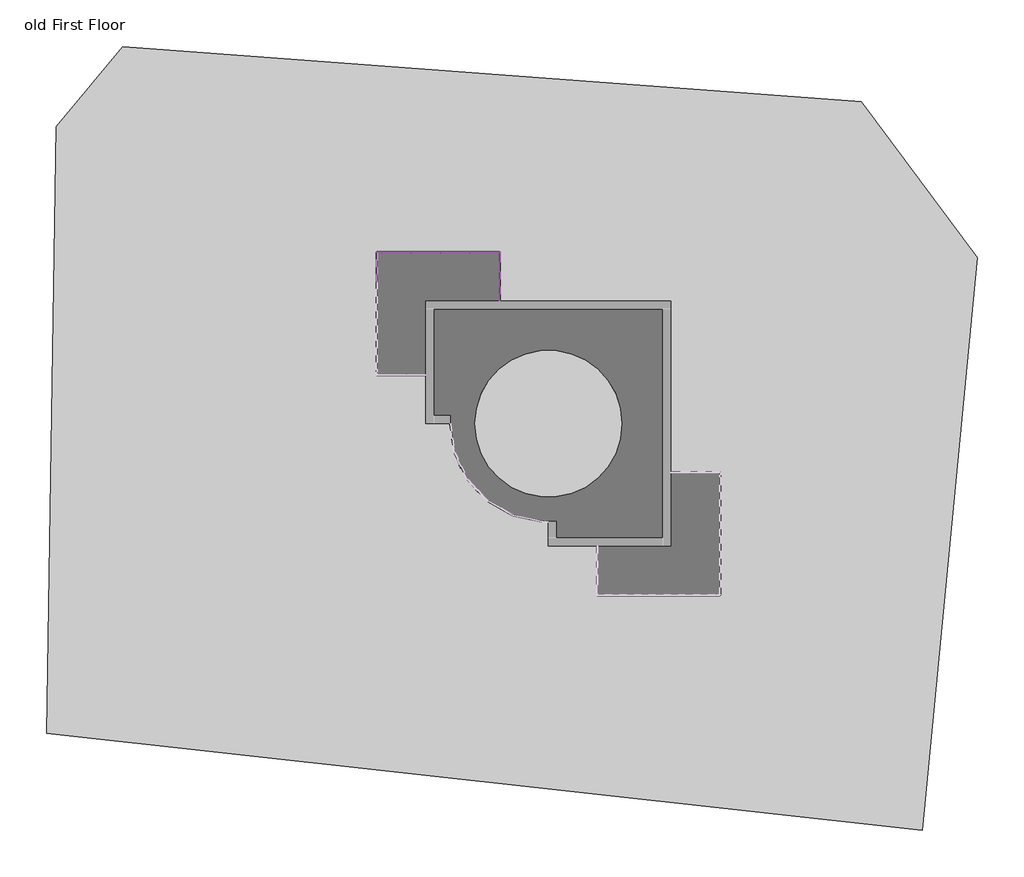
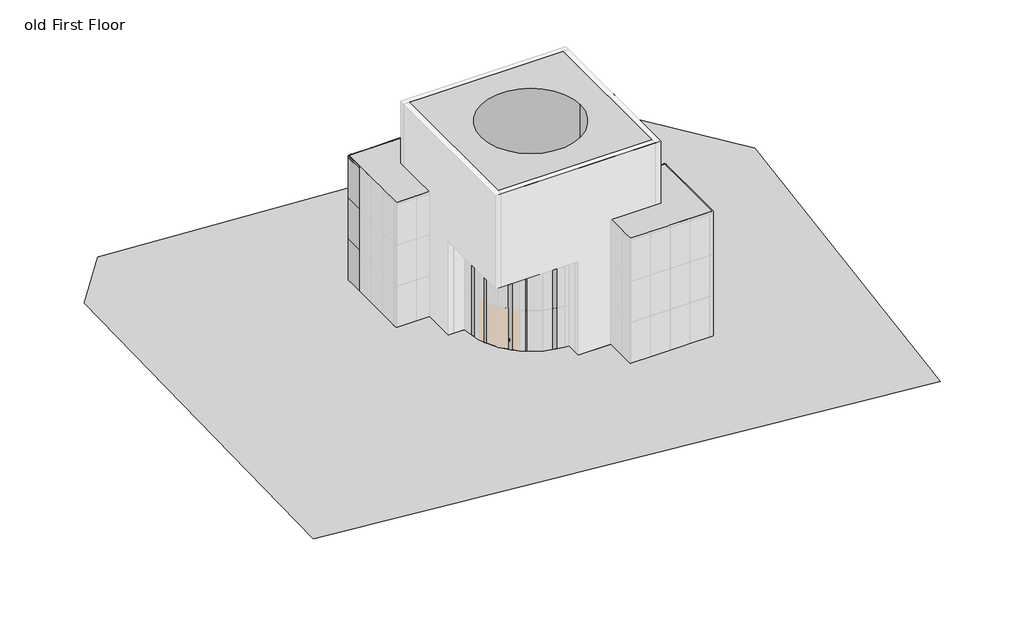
# One storey, part 4 of 4: 72 members, 32 plates, 3 proxies, 2 slabs.
"""IFC4 building model written with IfcOpenShell, lengths in millimetres."""

from ifc_helpers import new_model, si_unit, point, frame, frame_2d, origin, origin_with_axes, place, context, project, spatial, polyline, circle_curve, trimmed, segment, composite_curve, outline, extrude, triangles, transform, mapped, element, save
from ifc_brep_helpers import plane_surface, cylinder_surface, revolved_surface, advanced_brep
from components import member_159572b0, member_653015da, member_2a641000, member_559eaf3f, member_582f46e3, member_ecc72e92, member_f3435ee7, member_a0b1ebc8, member_e916581d, member_8d5cdd9e, member_e2275742, member_baf210a9, system_panel_glazed_055f5726, system_panel_glazed_f85f85f2, system_panel_glazed_14487ba2, system_panel_glazed_56128400, system_panel_glazed_75032e0c, system_panel_glazed_306a2926

model = new_model("IFC4")

# Units and contexts
model_context = context("Model", 3, world=origin())
ifc_project = project(units=[si_unit("LENGTHUNIT", "METRE", prefix="MILLI")], contexts=[model_context])

# Site, building, storey
site = spatial("IfcSite", under=ifc_project)
building = spatial("IfcBuilding", under=site)
storey = spatial("IfcBuildingStorey", under=building, Name="old First Floor", Elevation=0.0)

# Proxies
placement = place(None, origin())
element("IfcBuildingElementProxy", 1, Name="Building Element Proxy", at=placement, inside=storey, context=model_context, shape_type="Tessellation", body=[
    triangles([(-31541.8003052, -19605.3916809, 0.0), (22954.4198181, -25647.3647461, 0.0), (26390.0519714, 10012.1179413, 0.0), (19163.3779633, 19726.6610229, 0.0), (-26802.9965332, 23162.2931763, 0.0), (-30949.4480896, 18186.5503784, 0.0)], [[6, 4, 5], [4, 6, 1], [1, 3, 4], [3, 1, 2]], closed=False),
])
element("IfcBuildingElementProxy", 2, Name="Central Hall1 : Central Hall", ObjectType="Central Hall1 : Central Hall", at=placement, inside=storey, context=model_context, shape_type="AdvancedBrep", body=[
    advanced_brep(
    [(7308.8955952, 7299.8851347, 0.0), (-7931.1044048, 7299.8851347, 0.0), (-7931.1044048, 7299.8851347, 18288.0), (7308.8955952, 7299.8851347, 18288.0), (-7931.1044048, -320.1148653, 0.0), (-7931.1044048, -320.1148653, 9144.0), (-7931.1044048, -7940.1148653, 9144.0), (-7931.1044048, -7940.1148653, 18288.0), (7308.8955952, -7940.1148653, 0.0), (7308.8955952, -7940.1148653, 18288.0), (-311.1044048, -7940.1148653, 9144.0), (-311.1044048, -7940.1148653, 0.0), (4260.8955952, -320.1148653, 18288.0), (-4883.1044048, -320.1148653, 18288.0), (-311.1044048, -6416.1148653, 0.0), (-6407.1044048, -320.1148653, 0.0), (-4883.1044048, -320.1148653, 0.0), (4260.8955952, -320.1148653, 0.0), (-311.1044048, -6416.1148653, 9144.0), (-6407.1044048, -320.1148653, 9144.0)],
    [
        (0, 1),
        (1, 2),
        (2, 3),
        (3, 0),
        (1, 4),
        (4, 5),
        (5, 6),
        (6, 7),
        (7, 2),
        (8, 9),
        (9, 7),
        (6, 10),
        (10, 11),
        (11, 8),
        (3, 9),
        (8, 0),
        (12, 13, circle_curve(frame((-311.1044048, -320.1148653, 18288.0), z_axis=(0.0, 0.0, -1.0), x_axis=(0.0, -1.0, 0.0)), 4572.0)),
        (13, 12, circle_curve(frame((-311.1044048, -320.1148653, 18288.0), z_axis=(0.0, 0.0, -1.0), x_axis=(0.0, 1.0, 0.0)), 4572.0)),
        (11, 14),
        (14, 15, circle_curve(frame((-311.1044048, -320.1148653, 0.0), z_axis=(0.0, 0.0, -1.0), x_axis=(-1.0, 0.0, 0.0)), 6096.0)),
        (15, 4),
        (16, 17, circle_curve(frame((-311.1044048, -320.1148653, 0.0), z_axis=(0.0, 0.0, 1.0), x_axis=(0.0, -1.0, 0.0)), 4572.0)),
        (17, 16, circle_curve(frame((-311.1044048, -320.1148653, 0.0), z_axis=(0.0, 0.0, 1.0), x_axis=(0.0, 1.0, 0.0)), 4572.0)),
        (16, 13),
        (12, 17),
        (14, 18),
        (18, 19, circle_curve(frame((-311.1044048, -320.1148653, 9144.0), z_axis=(0.0, 0.0, -1.0), x_axis=(-1.0, 0.0, 0.0)), 6096.0)),
        (19, 15),
        (19, 5),
        (10, 18),
    ],
    [
        plane_surface(frame((-311.1044048, 7299.8851347, 0.0), z_axis=(0.0, 1.0, 0.0), x_axis=(-1.0, 0.0, 0.0))),
        plane_surface(frame((-7931.1044048, -320.1148653, 0.0), z_axis=(-1.0, 0.0, 0.0), x_axis=(0.0, -1.0, 0.0))),
        plane_surface(frame((-311.1044048, -7940.1148653, 0.0), z_axis=(0.0, -1.0, 0.0), x_axis=(1.0, 0.0, 0.0))),
        plane_surface(frame((7308.8955952, -320.1148653, 0.0), z_axis=(1.0, 0.0, 0.0), x_axis=(0.0, 1.0, 0.0))),
        plane_surface(frame((-311.1044048, -320.1148653, 18288.0), z_axis=(0.0, 0.0, 1.0), x_axis=(1.0, 0.0, 0.0))),
        plane_surface(frame((-311.1044048, -320.1148653, 0.0), z_axis=(0.0, 0.0, -1.0), x_axis=(0.0, -1.0, 0.0))),
        revolved_surface(polyline([(-311.1044048, -4892.1148653, 18288.0), (-311.1044048, -4892.1148653, 0.0)]), (-311.1044048, -320.1148653, 0.0), (0.0, 0.0, 1.0)),
        revolved_surface(polyline([(-311.1044048, 4251.8851347, 18288.0), (-311.1044048, 4251.8851347, 0.0)]), (-311.1044048, -320.1148653, 0.0), (0.0, 0.0, 1.0)),
        cylinder_surface(frame((-311.1044048, -320.1148653, 0.0), z_axis=(0.0, 0.0, 1.0), x_axis=(-1.0, 0.0, 0.0)), 6096.0),
        plane_surface(frame((-7169.1044048, -320.1148653, 0.0), z_axis=(0.0, -1.0, 0.0), x_axis=(-1.0, 0.0, 0.0))),
        plane_surface(frame((-311.1044048, -7178.1148653, 0.0), z_axis=(-1.0, 0.0, 0.0), x_axis=(0.0, 1.0, 0.0))),
        plane_surface(frame((-4578.3044048, -4587.3148653, 9144.0), z_axis=(0.0, 0.0, -1.0), x_axis=(-1.0, 0.0, 0.0))),
    ],
    [
        (0, [[1, 2, 3, 4]]),
        (1, [[-2, 5, 6, 7, 8, 9]]),
        (2, [[10, 11, -8, 12, 13, 14]]),
        (3, [[-4, 15, -10, 16]]),
        (4, [[-3, -9, -11, -15], [17, 18]]),
        (5, [[-1, -16, -14, 19, 20, 21, -5], [22, 23]]),
        (6, [[24, -17, 25, -22]]),
        (7, [[-24, -23, -25, -18]]),
        (8, [[26, 27, 28, -20]]),
        (9, [[-28, 29, -6, -21]]),
        (10, [[-26, -19, -13, 30]]),
        (11, [[-27, -30, -12, -7, -29]]),
    ],
),
])
element("IfcBuildingElementProxy", 3, Name="Wings1 : Wings", ObjectType="Wings1 : Wings", at=placement, inside=storey, context=model_context, shape_type="SweptSolid", body=[
    extrude(outline(polyline([(-3359.1044048, 10347.8851347), (-3359.1044048, 7299.8851347), (-7931.1044048, 7299.8851347), (-7931.1044048, 2727.8851347), (-10979.1044048, 2727.8851347), (-10979.1044048, 10347.8851347), (-3359.1044048, 10347.8851347)])), origin_with_axes(), (0.0, 0.0, 1.0), 12192.0),
    extrude(outline(polyline([(10356.8955952, -3368.1148653), (10356.8955952, -10988.1148653), (2736.8955952, -10988.1148653), (2736.8955952, -7940.1148653), (7308.8955952, -7940.1148653), (7308.8955952, -3368.1148653), (10356.8955952, -3368.1148653)])), origin_with_axes(), (0.0, 0.0, 1.0), 12192.0),
])

# Members
member_shape = member_159572b0(model_context)
element("IfcMember", 4, ObjectType="Rectangular Mullion : 1\" Square", at=placement, inside=storey, context=model_context, shape_type="MappedRepresentation", body=[
    mapped(member_shape, transform((-10953.7044048, 10347.8851347, 12192.0), x_axis=(0.0, 0.0, 1.0), y_axis=(0.0, 1.0, 0.0), z_axis=(-1.0, 0.0, 0.0))),
])
member_2_shape = member_653015da(model_context)
element("IfcMember", 5, ObjectType="Rectangular Mullion : 1\" Square", at=placement, inside=storey, context=model_context, shape_type="MappedRepresentation", body=[
    mapped(member_2_shape, transform((-10979.1044048, 10322.4851347, 0.0), x_axis=(0.0, 0.0, -1.0), y_axis=(-1.0, 0.0, 0.0), z_axis=(0.0, 1.0, 0.0))),
])
element("IfcMember", 6, ObjectType="Rectangular Mullion : 1\" Square", at=placement, inside=storey, context=model_context, shape_type="MappedRepresentation", body=[
    mapped(member_2_shape, transform((-3384.5044048, 10347.8851347, 0.0), x_axis=(0.0, 0.0, -1.0), y_axis=(0.0, 1.0, 0.0), z_axis=(1.0, 0.0, 0.0))),
])
member_3_shape = member_2a641000(model_context)
element("IfcMember", 7, ObjectType="Rectangular Mullion : 1\" Square", at=placement, inside=storey, context=model_context, shape_type="MappedRepresentation", body=[
    mapped(member_3_shape, transform((-5189.1044048, 10347.8851347, 0.0), x_axis=(-1.0, 0.0, 0.0), y_axis=(0.0, 1.0, 0.0), z_axis=(0.0, 0.0, -1.0))),
])
element("IfcMember", 8, ObjectType="Rectangular Mullion : 1\" Square", at=placement, inside=storey, context=model_context, shape_type="MappedRepresentation", body=[
    mapped(member_3_shape, transform((-7019.1044048, 10347.8851347, 0.0), x_axis=(-1.0, 0.0, 0.0), y_axis=(0.0, 1.0, 0.0), z_axis=(0.0, 0.0, -1.0))),
])
element("IfcMember", 9, ObjectType="Rectangular Mullion : 1\" Square", at=placement, inside=storey, context=model_context, shape_type="MappedRepresentation", body=[
    mapped(member_3_shape, transform((-8849.1044048, 10347.8851347, 0.0), x_axis=(-1.0, 0.0, 0.0), y_axis=(0.0, 1.0, 0.0), z_axis=(0.0, 0.0, -1.0))),
])
element("IfcMember", 10, ObjectType="Rectangular Mullion : 1\" Square", at=placement, inside=storey, context=model_context, shape_type="MappedRepresentation", body=[
    mapped(member_3_shape, transform((-10679.1044048, 10347.8851347, 0.0), x_axis=(-1.0, 0.0, 0.0), y_axis=(0.0, 1.0, 0.0), z_axis=(0.0, 0.0, -1.0))),
])
element("IfcMember", 11, ObjectType="Rectangular Mullion : 1\" Square", at=placement, inside=storey, context=model_context, shape_type="MappedRepresentation", body=[
    mapped(member_3_shape, transform((-3359.1044048, 9129.8851347, 0.0), x_axis=(0.0, 1.0, 0.0), y_axis=(1.0, 0.0, 0.0), z_axis=(0.0, 0.0, -1.0))),
])
member_4_shape = member_559eaf3f(model_context)
element("IfcMember", 12, ObjectType="Rectangular Mullion : 1\" Square", at=placement, inside=storey, context=model_context, shape_type="MappedRepresentation", body=[
    mapped(member_4_shape, transform((-5176.4044048, 10347.8851347, 4000.0), x_axis=(0.0, 0.0, 1.0), y_axis=(0.0, 1.0, 0.0), z_axis=(-1.0, 0.0, 0.0))),
])
element("IfcMember", 13, ObjectType="Rectangular Mullion : 1\" Square", at=placement, inside=storey, context=model_context, shape_type="MappedRepresentation", body=[
    mapped(member_4_shape, transform((-5176.4044048, 10347.8851347, 8000.0), x_axis=(0.0, 0.0, 1.0), y_axis=(0.0, 1.0, 0.0), z_axis=(-1.0, 0.0, 0.0))),
])
element("IfcMember", 14, ObjectType="Rectangular Mullion : 1\" Square", at=placement, inside=storey, context=model_context, shape_type="MappedRepresentation", body=[
    mapped(member_4_shape, transform((-5176.4044048, 10347.8851347, 12000.0), x_axis=(0.0, 0.0, 1.0), y_axis=(0.0, 1.0, 0.0), z_axis=(-1.0, 0.0, 0.0))),
])
element("IfcMember", 15, ObjectType="Rectangular Mullion : 1\" Square", at=placement, inside=storey, context=model_context, shape_type="MappedRepresentation", body=[
    mapped(member_4_shape, transform((-3359.1044048, 9117.1851347, 4000.0), x_axis=(0.0, 0.0, 1.0), y_axis=(1.0, 0.0, 0.0), z_axis=(0.0, 1.0, 0.0))),
])
element("IfcMember", 16, ObjectType="Rectangular Mullion : 1\" Square", at=placement, inside=storey, context=model_context, shape_type="MappedRepresentation", body=[
    mapped(member_4_shape, transform((-3359.1044048, 9117.1851347, 8000.0), x_axis=(0.0, 0.0, 1.0), y_axis=(1.0, 0.0, 0.0), z_axis=(0.0, 1.0, 0.0))),
])
element("IfcMember", 17, ObjectType="Rectangular Mullion : 1\" Square", at=placement, inside=storey, context=model_context, shape_type="MappedRepresentation", body=[
    mapped(member_4_shape, transform((-3359.1044048, 9117.1851347, 12000.0), x_axis=(0.0, 0.0, 1.0), y_axis=(1.0, 0.0, 0.0), z_axis=(0.0, 1.0, 0.0))),
])
member_5_shape = member_582f46e3(model_context)
element("IfcMember", 18, ObjectType="Rectangular Mullion : 1\" Square", at=placement, inside=storey, context=model_context, shape_type="MappedRepresentation", body=[
    mapped(member_5_shape, transform((-7006.4044048, 10347.8851347, 4000.0), x_axis=(0.0, 0.0, 1.0), y_axis=(0.0, 1.0, 0.0), z_axis=(-1.0, 0.0, 0.0))),
])
element("IfcMember", 19, ObjectType="Rectangular Mullion : 1\" Square", at=placement, inside=storey, context=model_context, shape_type="MappedRepresentation", body=[
    mapped(member_5_shape, transform((-8836.4044048, 10347.8851347, 4000.0), x_axis=(0.0, 0.0, 1.0), y_axis=(0.0, 1.0, 0.0), z_axis=(-1.0, 0.0, 0.0))),
])
element("IfcMember", 20, ObjectType="Rectangular Mullion : 1\" Square", at=placement, inside=storey, context=model_context, shape_type="MappedRepresentation", body=[
    mapped(member_5_shape, transform((-10666.4044048, 10347.8851347, 4000.0), x_axis=(0.0, 0.0, 1.0), y_axis=(0.0, 1.0, 0.0), z_axis=(-1.0, 0.0, 0.0))),
])
element("IfcMember", 21, ObjectType="Rectangular Mullion : 1\" Square", at=placement, inside=storey, context=model_context, shape_type="MappedRepresentation", body=[
    mapped(member_5_shape, transform((-7006.4044048, 10347.8851347, 8000.0), x_axis=(0.0, 0.0, 1.0), y_axis=(0.0, 1.0, 0.0), z_axis=(-1.0, 0.0, 0.0))),
])
element("IfcMember", 22, ObjectType="Rectangular Mullion : 1\" Square", at=placement, inside=storey, context=model_context, shape_type="MappedRepresentation", body=[
    mapped(member_5_shape, transform((-8836.4044048, 10347.8851347, 8000.0), x_axis=(0.0, 0.0, 1.0), y_axis=(0.0, 1.0, 0.0), z_axis=(-1.0, 0.0, 0.0))),
])
element("IfcMember", 23, ObjectType="Rectangular Mullion : 1\" Square", at=placement, inside=storey, context=model_context, shape_type="MappedRepresentation", body=[
    mapped(member_5_shape, transform((-10666.4044048, 10347.8851347, 8000.0), x_axis=(0.0, 0.0, 1.0), y_axis=(0.0, 1.0, 0.0), z_axis=(-1.0, 0.0, 0.0))),
])
element("IfcMember", 24, ObjectType="Rectangular Mullion : 1\" Square", at=placement, inside=storey, context=model_context, shape_type="MappedRepresentation", body=[
    mapped(member_5_shape, transform((-7006.4044048, 10347.8851347, 12000.0), x_axis=(0.0, 0.0, 1.0), y_axis=(0.0, 1.0, 0.0), z_axis=(-1.0, 0.0, 0.0))),
])
element("IfcMember", 25, ObjectType="Rectangular Mullion : 1\" Square", at=placement, inside=storey, context=model_context, shape_type="MappedRepresentation", body=[
    mapped(member_5_shape, transform((-8836.4044048, 10347.8851347, 12000.0), x_axis=(0.0, 0.0, 1.0), y_axis=(0.0, 1.0, 0.0), z_axis=(-1.0, 0.0, 0.0))),
])
element("IfcMember", 26, ObjectType="Rectangular Mullion : 1\" Square", at=placement, inside=storey, context=model_context, shape_type="MappedRepresentation", body=[
    mapped(member_5_shape, transform((-10666.4044048, 10347.8851347, 12000.0), x_axis=(0.0, 0.0, 1.0), y_axis=(0.0, 1.0, 0.0), z_axis=(-1.0, 0.0, 0.0))),
])
member_6_shape = member_ecc72e92(model_context)
element("IfcMember", 27, ObjectType="Rectangular Mullion : 1\" Square", at=placement, inside=storey, context=model_context, shape_type="MappedRepresentation", body=[
    mapped(member_6_shape, transform((-10953.7044048, 10347.8851347, 4000.0), x_axis=(0.0, 0.0, 1.0), y_axis=(0.0, 1.0, 0.0), z_axis=(-1.0, 0.0, 0.0))),
])
element("IfcMember", 28, ObjectType="Rectangular Mullion : 1\" Square", at=placement, inside=storey, context=model_context, shape_type="MappedRepresentation", body=[
    mapped(member_6_shape, transform((-10953.7044048, 10347.8851347, 8000.0), x_axis=(0.0, 0.0, 1.0), y_axis=(0.0, 1.0, 0.0), z_axis=(-1.0, 0.0, 0.0))),
])
element("IfcMember", 29, ObjectType="Rectangular Mullion : 1\" Square", at=placement, inside=storey, context=model_context, shape_type="MappedRepresentation", body=[
    mapped(member_6_shape, transform((-10953.7044048, 10347.8851347, 12000.0), x_axis=(0.0, 0.0, 1.0), y_axis=(0.0, 1.0, 0.0), z_axis=(-1.0, 0.0, 0.0))),
])
member_7_shape = member_f3435ee7(model_context)
element("IfcMember", 30, ObjectType="Rectangular Mullion : 1\" Square", at=placement, inside=storey, context=model_context, shape_type="MappedRepresentation", body=[
    mapped(member_7_shape, transform((-5201.8044048, 10347.8851347, 0.0), x_axis=(0.0, 0.0, -1.0), y_axis=(0.0, 1.0, 0.0), z_axis=(1.0, 0.0, 0.0))),
])
element("IfcMember", 31, ObjectType="Rectangular Mullion : 1\" Square", at=placement, inside=storey, context=model_context, shape_type="MappedRepresentation", body=[
    mapped(member_7_shape, transform((-7031.8044048, 10347.8851347, 0.0), x_axis=(0.0, 0.0, -1.0), y_axis=(0.0, 1.0, 0.0), z_axis=(1.0, 0.0, 0.0))),
])
element("IfcMember", 32, ObjectType="Rectangular Mullion : 1\" Square", at=placement, inside=storey, context=model_context, shape_type="MappedRepresentation", body=[
    mapped(member_7_shape, transform((-8861.8044048, 10347.8851347, 0.0), x_axis=(0.0, 0.0, -1.0), y_axis=(0.0, 1.0, 0.0), z_axis=(1.0, 0.0, 0.0))),
])
element("IfcMember", 33, ObjectType="Rectangular Mullion : 1\" Square", at=placement, inside=storey, context=model_context, shape_type="MappedRepresentation", body=[
    mapped(member_shape, transform((-10691.8044048, 10347.8851347, 0.0), x_axis=(0.0, 0.0, -1.0), y_axis=(0.0, 1.0, 0.0), z_axis=(1.0, 0.0, 0.0))),
])
element("IfcMember", 34, ObjectType="Rectangular Mullion : 1\" Square", at=placement, inside=storey, context=model_context, shape_type="MappedRepresentation", body=[
    mapped(member_2_shape, transform((-5176.4044048, 10347.8851347, 12192.0), x_axis=(0.0, 0.0, 1.0), y_axis=(0.0, 1.0, 0.0), z_axis=(-1.0, 0.0, 0.0))),
])
element("IfcMember", 35, ObjectType="Rectangular Mullion : 1\" Square", at=placement, inside=storey, context=model_context, shape_type="MappedRepresentation", body=[
    mapped(member_2_shape, transform((-3359.1044048, 9117.1851347, 12192.0), x_axis=(0.0, 0.0, 1.0), y_axis=(1.0, 0.0, 0.0), z_axis=(0.0, 1.0, 0.0))),
])
element("IfcMember", 36, ObjectType="Rectangular Mullion : 1\" Square", at=placement, inside=storey, context=model_context, shape_type="MappedRepresentation", body=[
    mapped(member_7_shape, transform((-7006.4044048, 10347.8851347, 12192.0), x_axis=(0.0, 0.0, 1.0), y_axis=(0.0, 1.0, 0.0), z_axis=(-1.0, 0.0, 0.0))),
])
element("IfcMember", 37, ObjectType="Rectangular Mullion : 1\" Square", at=placement, inside=storey, context=model_context, shape_type="MappedRepresentation", body=[
    mapped(member_7_shape, transform((-8836.4044048, 10347.8851347, 12192.0), x_axis=(0.0, 0.0, 1.0), y_axis=(0.0, 1.0, 0.0), z_axis=(-1.0, 0.0, 0.0))),
])
element("IfcMember", 38, ObjectType="Rectangular Mullion : 1\" Square", at=placement, inside=storey, context=model_context, shape_type="MappedRepresentation", body=[
    mapped(member_7_shape, transform((-10666.4044048, 10347.8851347, 12192.0), x_axis=(0.0, 0.0, 1.0), y_axis=(0.0, 1.0, 0.0), z_axis=(-1.0, 0.0, 0.0))),
])
element("IfcMember", 39, ObjectType="Rectangular Mullion : 1\" Square", at=placement, inside=storey, context=model_context, shape_type="MappedRepresentation", body=[
    mapped(member_3_shape, transform((-5189.1044048, 10347.8851347, 4000.0), x_axis=(-1.0, 0.0, 0.0), y_axis=(0.0, 1.0, 0.0), z_axis=(0.0, 0.0, -1.0))),
])
element("IfcMember", 40, ObjectType="Rectangular Mullion : 1\" Square", at=placement, inside=storey, context=model_context, shape_type="MappedRepresentation", body=[
    mapped(member_3_shape, transform((-5189.1044048, 10347.8851347, 8000.0), x_axis=(-1.0, 0.0, 0.0), y_axis=(0.0, 1.0, 0.0), z_axis=(0.0, 0.0, -1.0))),
])
element("IfcMember", 41, ObjectType="Rectangular Mullion : 1\" Square", at=placement, inside=storey, context=model_context, shape_type="MappedRepresentation", body=[
    mapped(member_3_shape, transform((-7019.1044048, 10347.8851347, 4000.0), x_axis=(-1.0, 0.0, 0.0), y_axis=(0.0, 1.0, 0.0), z_axis=(0.0, 0.0, -1.0))),
])
element("IfcMember", 42, ObjectType="Rectangular Mullion : 1\" Square", at=placement, inside=storey, context=model_context, shape_type="MappedRepresentation", body=[
    mapped(member_3_shape, transform((-7019.1044048, 10347.8851347, 8000.0), x_axis=(-1.0, 0.0, 0.0), y_axis=(0.0, 1.0, 0.0), z_axis=(0.0, 0.0, -1.0))),
])
element("IfcMember", 43, ObjectType="Rectangular Mullion : 1\" Square", at=placement, inside=storey, context=model_context, shape_type="MappedRepresentation", body=[
    mapped(member_3_shape, transform((-8849.1044048, 10347.8851347, 4000.0), x_axis=(-1.0, 0.0, 0.0), y_axis=(0.0, 1.0, 0.0), z_axis=(0.0, 0.0, -1.0))),
])
element("IfcMember", 44, ObjectType="Rectangular Mullion : 1\" Square", at=placement, inside=storey, context=model_context, shape_type="MappedRepresentation", body=[
    mapped(member_3_shape, transform((-8849.1044048, 10347.8851347, 8000.0), x_axis=(-1.0, 0.0, 0.0), y_axis=(0.0, 1.0, 0.0), z_axis=(0.0, 0.0, -1.0))),
])
element("IfcMember", 45, ObjectType="Rectangular Mullion : 1\" Square", at=placement, inside=storey, context=model_context, shape_type="MappedRepresentation", body=[
    mapped(member_3_shape, transform((-10679.1044048, 10347.8851347, 4000.0), x_axis=(-1.0, 0.0, 0.0), y_axis=(0.0, 1.0, 0.0), z_axis=(0.0, 0.0, -1.0))),
])
element("IfcMember", 46, ObjectType="Rectangular Mullion : 1\" Square", at=placement, inside=storey, context=model_context, shape_type="MappedRepresentation", body=[
    mapped(member_3_shape, transform((-10679.1044048, 10347.8851347, 8000.0), x_axis=(-1.0, 0.0, 0.0), y_axis=(0.0, 1.0, 0.0), z_axis=(0.0, 0.0, -1.0))),
])
element("IfcMember", 47, ObjectType="Rectangular Mullion : 1\" Square", at=placement, inside=storey, context=model_context, shape_type="MappedRepresentation", body=[
    mapped(member_3_shape, transform((-3359.1044048, 9129.8851347, 4000.0), x_axis=(0.0, 1.0, 0.0), y_axis=(1.0, 0.0, 0.0), z_axis=(0.0, 0.0, -1.0))),
])
element("IfcMember", 48, ObjectType="Rectangular Mullion : 1\" Square", at=placement, inside=storey, context=model_context, shape_type="MappedRepresentation", body=[
    mapped(member_3_shape, transform((-3359.1044048, 9129.8851347, 8000.0), x_axis=(0.0, 1.0, 0.0), y_axis=(1.0, 0.0, 0.0), z_axis=(0.0, 0.0, -1.0))),
])
member_8_shape = member_a0b1ebc8(model_context)
element("IfcMember", 49, ObjectType="Rectangular Mullion : 1\" Square", at=placement, inside=storey, context=model_context, shape_type="MappedRepresentation", body=[
    mapped(member_8_shape, transform((-10979.1044048, 8517.8851347, 12000.0), x_axis=(0.0, -1.0, 0.0), y_axis=(-1.0, 0.0, 0.0), z_axis=(0.0, 0.0, -1.0))),
])
element("IfcMember", 50, ObjectType="Rectangular Mullion : 1\" Square", at=placement, inside=storey, context=model_context, shape_type="MappedRepresentation", body=[
    mapped(member_8_shape, transform((-5189.1044048, 10347.8851347, 12000.0), x_axis=(-1.0, 0.0, 0.0), y_axis=(0.0, 1.0, 0.0), z_axis=(0.0, 0.0, -1.0))),
])
element("IfcMember", 51, ObjectType="Rectangular Mullion : 1\" Square", at=placement, inside=storey, context=model_context, shape_type="MappedRepresentation", body=[
    mapped(member_8_shape, transform((-7019.1044048, 10347.8851347, 12000.0), x_axis=(-1.0, 0.0, 0.0), y_axis=(0.0, 1.0, 0.0), z_axis=(0.0, 0.0, -1.0))),
])
element("IfcMember", 52, ObjectType="Rectangular Mullion : 1\" Square", at=placement, inside=storey, context=model_context, shape_type="MappedRepresentation", body=[
    mapped(member_8_shape, transform((-8849.1044048, 10347.8851347, 12000.0), x_axis=(-1.0, 0.0, 0.0), y_axis=(0.0, 1.0, 0.0), z_axis=(0.0, 0.0, -1.0))),
])
element("IfcMember", 53, ObjectType="Rectangular Mullion : 1\" Square", at=placement, inside=storey, context=model_context, shape_type="MappedRepresentation", body=[
    mapped(member_8_shape, transform((-10679.1044048, 10347.8851347, 12000.0), x_axis=(-1.0, 0.0, 0.0), y_axis=(0.0, 1.0, 0.0), z_axis=(0.0, 0.0, -1.0))),
])
element("IfcMember", 54, ObjectType="Rectangular Mullion : 1\" Square", at=placement, inside=storey, context=model_context, shape_type="MappedRepresentation", body=[
    mapped(member_8_shape, transform((-3359.1044048, 9129.8851347, 12000.0), x_axis=(0.0, 1.0, 0.0), y_axis=(1.0, 0.0, 0.0), z_axis=(0.0, 0.0, -1.0))),
])
member_9_shape = member_e916581d(model_context)
element("IfcMember", 55, ObjectType="Rectangular Mullion : 1\" Square", at=placement, inside=storey, context=model_context, shape_type="MappedRepresentation", body=[
    mapped(member_9_shape, transform((-3359.1044048, 10322.4851347, 12192.0), x_axis=(0.0, 0.0, 1.0), y_axis=(1.0, 0.0, 0.0), z_axis=(0.0, 1.0, 0.0))),
])
member_10_shape = member_8d5cdd9e(model_context)
element("IfcMember", 56, ObjectType="Rectangular Mullion : 1\" Square", at=placement, inside=storey, context=model_context, shape_type="MappedRepresentation", body=[
    mapped(member_10_shape, transform((-3359.1044048, 10322.4851347, 4000.0), x_axis=(0.0, 0.0, 1.0), y_axis=(1.0, 0.0, 0.0), z_axis=(0.0, 1.0, 0.0))),
])
element("IfcMember", 57, ObjectType="Rectangular Mullion : 1\" Square", at=placement, inside=storey, context=model_context, shape_type="MappedRepresentation", body=[
    mapped(member_10_shape, transform((-3359.1044048, 10322.4851347, 8000.0), x_axis=(0.0, 0.0, 1.0), y_axis=(1.0, 0.0, 0.0), z_axis=(0.0, 1.0, 0.0))),
])
element("IfcMember", 58, ObjectType="Rectangular Mullion : 1\" Square", at=placement, inside=storey, context=model_context, shape_type="MappedRepresentation", body=[
    mapped(member_10_shape, transform((-3359.1044048, 10322.4851347, 12000.0), x_axis=(0.0, 0.0, 1.0), y_axis=(1.0, 0.0, 0.0), z_axis=(0.0, 1.0, 0.0))),
])
element("IfcMember", 59, ObjectType="Rectangular Mullion : 1\" Square", at=placement, inside=storey, context=model_context, shape_type="MappedRepresentation", body=[
    mapped(member_9_shape, transform((-3359.1044048, 9142.5851347, 0.0), x_axis=(0.0, 0.0, -1.0), y_axis=(1.0, 0.0, 0.0), z_axis=(0.0, -1.0, 0.0))),
])
member_11_shape = member_e2275742(model_context)
element("IfcMember", 60, ObjectType="Rectangular Mullion : 1\" Square", at=placement, inside=storey, context=model_context, shape_type="MappedRepresentation", body=[
    mapped(member_11_shape, transform((-10979.1044048, 10347.8851347, 0.0), x_axis=(-1.0, 0.0, 0.0), y_axis=(0.0, 1.0, 0.0), z_axis=(0.0, 0.0, -1.0))),
])
element("IfcMember", 61, ObjectType="Rectangular Mullion : 1\" Square", at=placement, inside=storey, context=model_context, shape_type="MappedRepresentation", body=[
    mapped(member_11_shape, transform((-3359.1044048, 10347.8851347, 0.0), x_axis=(0.0, 1.0, 0.0), y_axis=(1.0, 0.0, 0.0), z_axis=(0.0, 0.0, -1.0))),
])
element("IfcMember", 62, ObjectType="Rectangular Mullion : 1\" Square", at=placement, inside=storey, context=model_context, shape_type="MappedRepresentation", body=[
    mapped(member_11_shape, transform((-10979.1044048, 10347.8851347, 4000.0), x_axis=(0.0, 1.0, 0.0), y_axis=(-1.0, 0.0, 0.0), z_axis=(0.0, 0.0, 1.0))),
])
element("IfcMember", 63, ObjectType="Rectangular Mullion : 1\" Square", at=placement, inside=storey, context=model_context, shape_type="MappedRepresentation", body=[
    mapped(member_11_shape, transform((-3359.1044048, 10347.8851347, 4000.0), x_axis=(1.0, 0.0, 0.0), y_axis=(0.0, 1.0, 0.0), z_axis=(0.0, 0.0, 1.0))),
])
element("IfcMember", 64, ObjectType="Rectangular Mullion : 1\" Square", at=placement, inside=storey, context=model_context, shape_type="MappedRepresentation", body=[
    mapped(member_11_shape, transform((-10979.1044048, 10347.8851347, 8000.0), x_axis=(0.0, 1.0, 0.0), y_axis=(-1.0, 0.0, 0.0), z_axis=(0.0, 0.0, 1.0))),
])
element("IfcMember", 65, ObjectType="Rectangular Mullion : 1\" Square", at=placement, inside=storey, context=model_context, shape_type="MappedRepresentation", body=[
    mapped(member_11_shape, transform((-10979.1044048, 10347.8851347, 12000.0), x_axis=(0.0, 1.0, 0.0), y_axis=(-1.0, 0.0, 0.0), z_axis=(0.0, 0.0, 1.0))),
])
element("IfcMember", 66, ObjectType="Rectangular Mullion : 1\" Square", at=placement, inside=storey, context=model_context, shape_type="MappedRepresentation", body=[
    mapped(member_11_shape, transform((-3359.1044048, 10347.8851347, 8000.0), x_axis=(1.0, 0.0, 0.0), y_axis=(0.0, 1.0, 0.0), z_axis=(0.0, 0.0, 1.0))),
])
element("IfcMember", 67, ObjectType="Rectangular Mullion : 1\" Square", at=placement, inside=storey, context=model_context, shape_type="MappedRepresentation", body=[
    mapped(member_11_shape, transform((-3359.1044048, 10347.8851347, 12000.0), x_axis=(1.0, 0.0, 0.0), y_axis=(0.0, 1.0, 0.0), z_axis=(0.0, 0.0, 1.0))),
])
element("IfcMember", 68, ObjectType="Rectangular Mullion : 1\" Square", at=placement, inside=storey, context=model_context, shape_type="MappedRepresentation", body=[
    mapped(member_11_shape, transform((-10979.1044048, 10347.8851347, 4000.0), x_axis=(-1.0, 0.0, 0.0), y_axis=(0.0, 1.0, 0.0), z_axis=(0.0, 0.0, -1.0))),
])
element("IfcMember", 69, ObjectType="Rectangular Mullion : 1\" Square", at=placement, inside=storey, context=model_context, shape_type="MappedRepresentation", body=[
    mapped(member_11_shape, transform((-10979.1044048, 10347.8851347, 8000.0), x_axis=(-1.0, 0.0, 0.0), y_axis=(0.0, 1.0, 0.0), z_axis=(0.0, 0.0, -1.0))),
])
element("IfcMember", 70, ObjectType="Rectangular Mullion : 1\" Square", at=placement, inside=storey, context=model_context, shape_type="MappedRepresentation", body=[
    mapped(member_11_shape, transform((-3359.1044048, 10347.8851347, 4000.0), x_axis=(0.0, 1.0, 0.0), y_axis=(1.0, 0.0, 0.0), z_axis=(0.0, 0.0, -1.0))),
])
element("IfcMember", 71, ObjectType="Rectangular Mullion : 1\" Square", at=placement, inside=storey, context=model_context, shape_type="MappedRepresentation", body=[
    mapped(member_11_shape, transform((-3359.1044048, 10347.8851347, 8000.0), x_axis=(0.0, 1.0, 0.0), y_axis=(1.0, 0.0, 0.0), z_axis=(0.0, 0.0, -1.0))),
])
member_12_shape = member_baf210a9(model_context)
element("IfcMember", 72, ObjectType="Rectangular Mullion : 1\" Square", at=placement, inside=storey, context=model_context, shape_type="MappedRepresentation", body=[
    mapped(member_12_shape, transform((-10979.1044048, 10347.8851347, 12192.0), x_axis=(0.0, 1.0, 0.0), y_axis=(-1.0, 0.0, 0.0), z_axis=(0.0, 0.0, 1.0))),
])
element("IfcMember", 73, ObjectType="Rectangular Mullion : 1\" Square", at=placement, inside=storey, context=model_context, shape_type="MappedRepresentation", body=[
    mapped(member_12_shape, transform((-3359.1044048, 10347.8851347, 12192.0), x_axis=(1.0, 0.0, 0.0), y_axis=(0.0, 1.0, 0.0), z_axis=(0.0, 0.0, 1.0))),
])
element("IfcMember", 74, ObjectType="Rectangular Mullion : 1\" Square", at=placement, inside=storey, context=model_context, shape_type="MappedRepresentation", body=[
    mapped(member_12_shape, transform((-10979.1044048, 10347.8851347, 12000.0), x_axis=(-1.0, 0.0, 0.0), y_axis=(0.0, 1.0, 0.0), z_axis=(0.0, 0.0, -1.0))),
])
element("IfcMember", 75, ObjectType="Rectangular Mullion : 1\" Square", at=placement, inside=storey, context=model_context, shape_type="MappedRepresentation", body=[
    mapped(member_12_shape, transform((-3359.1044048, 10347.8851347, 12000.0), x_axis=(0.0, 1.0, 0.0), y_axis=(1.0, 0.0, 0.0), z_axis=(0.0, 0.0, -1.0))),
])

# Plates
system_panel_glazed_shape = system_panel_glazed_055f5726(model_context)
element("IfcPlate", 76, ObjectType="System Panel : Glazed", at=placement, inside=storey, context=model_context, shape_type="MappedRepresentation", body=[
    mapped(system_panel_glazed_shape, transform((-10979.1044048, 9432.8851347, 0.0), x_axis=(0.0, -1.0, 0.0), y_axis=(1.0, 0.0, 0.0), z_axis=(0.0, 0.0, 1.0))),
])
element("IfcPlate", 77, ObjectType="System Panel : Glazed", at=placement, inside=storey, context=model_context, shape_type="MappedRepresentation", body=[
    mapped(system_panel_glazed_shape, transform((-10979.1044048, 9432.8851347, 4000.0), x_axis=(0.0, -1.0, 0.0), y_axis=(1.0, 0.0, 0.0), z_axis=(0.0, 0.0, 1.0))),
])
element("IfcPlate", 78, ObjectType="System Panel : Glazed", at=placement, inside=storey, context=model_context, shape_type="MappedRepresentation", body=[
    mapped(system_panel_glazed_shape, transform((-10979.1044048, 9432.8851347, 8000.0), x_axis=(0.0, -1.0, 0.0), y_axis=(1.0, 0.0, 0.0), z_axis=(0.0, 0.0, 1.0))),
])
element("IfcPlate", 79, ObjectType="System Panel : Glazed", at=placement, inside=storey, context=model_context, shape_type="MappedRepresentation", body=[
    mapped(system_panel_glazed_shape, transform((-4274.1044048, 10347.8851347, 0.0), x_axis=(-1.0, 0.0, 0.0), y_axis=(0.0, -1.0, 0.0), z_axis=(0.0, 0.0, 1.0))),
])
element("IfcPlate", 80, ObjectType="System Panel : Glazed", at=placement, inside=storey, context=model_context, shape_type="MappedRepresentation", body=[
    mapped(system_panel_glazed_shape, transform((-6104.1044048, 10347.8851347, 0.0), x_axis=(-1.0, 0.0, 0.0), y_axis=(0.0, -1.0, 0.0), z_axis=(0.0, 0.0, 1.0))),
])
element("IfcPlate", 81, ObjectType="System Panel : Glazed", at=placement, inside=storey, context=model_context, shape_type="MappedRepresentation", body=[
    mapped(system_panel_glazed_shape, transform((-7934.1044048, 10347.8851347, 0.0), x_axis=(-1.0, 0.0, 0.0), y_axis=(0.0, -1.0, 0.0), z_axis=(0.0, 0.0, 1.0))),
])
element("IfcPlate", 82, ObjectType="System Panel : Glazed", at=placement, inside=storey, context=model_context, shape_type="MappedRepresentation", body=[
    mapped(system_panel_glazed_shape, transform((-9764.1044048, 10347.8851347, 0.0), x_axis=(-1.0, 0.0, 0.0), y_axis=(0.0, -1.0, 0.0), z_axis=(0.0, 0.0, 1.0))),
])
element("IfcPlate", 83, ObjectType="System Panel : Glazed", at=placement, inside=storey, context=model_context, shape_type="MappedRepresentation", body=[
    mapped(system_panel_glazed_shape, transform((-4274.1044048, 10347.8851347, 4000.0), x_axis=(-1.0, 0.0, 0.0), y_axis=(0.0, -1.0, 0.0), z_axis=(0.0, 0.0, 1.0))),
])
element("IfcPlate", 84, ObjectType="System Panel : Glazed", at=placement, inside=storey, context=model_context, shape_type="MappedRepresentation", body=[
    mapped(system_panel_glazed_shape, transform((-6104.1044048, 10347.8851347, 4000.0), x_axis=(-1.0, 0.0, 0.0), y_axis=(0.0, -1.0, 0.0), z_axis=(0.0, 0.0, 1.0))),
])
element("IfcPlate", 85, ObjectType="System Panel : Glazed", at=placement, inside=storey, context=model_context, shape_type="MappedRepresentation", body=[
    mapped(system_panel_glazed_shape, transform((-7934.1044048, 10347.8851347, 4000.0), x_axis=(-1.0, 0.0, 0.0), y_axis=(0.0, -1.0, 0.0), z_axis=(0.0, 0.0, 1.0))),
])
element("IfcPlate", 86, ObjectType="System Panel : Glazed", at=placement, inside=storey, context=model_context, shape_type="MappedRepresentation", body=[
    mapped(system_panel_glazed_shape, transform((-9764.1044048, 10347.8851347, 4000.0), x_axis=(-1.0, 0.0, 0.0), y_axis=(0.0, -1.0, 0.0), z_axis=(0.0, 0.0, 1.0))),
])
element("IfcPlate", 87, ObjectType="System Panel : Glazed", at=placement, inside=storey, context=model_context, shape_type="MappedRepresentation", body=[
    mapped(system_panel_glazed_shape, transform((-4274.1044048, 10347.8851347, 8000.0), x_axis=(-1.0, 0.0, 0.0), y_axis=(0.0, -1.0, 0.0), z_axis=(0.0, 0.0, 1.0))),
])
element("IfcPlate", 88, ObjectType="System Panel : Glazed", at=placement, inside=storey, context=model_context, shape_type="MappedRepresentation", body=[
    mapped(system_panel_glazed_shape, transform((-6104.1044048, 10347.8851347, 8000.0), x_axis=(-1.0, 0.0, 0.0), y_axis=(0.0, -1.0, 0.0), z_axis=(0.0, 0.0, 1.0))),
])
element("IfcPlate", 89, ObjectType="System Panel : Glazed", at=placement, inside=storey, context=model_context, shape_type="MappedRepresentation", body=[
    mapped(system_panel_glazed_shape, transform((-7934.1044048, 10347.8851347, 8000.0), x_axis=(-1.0, 0.0, 0.0), y_axis=(0.0, -1.0, 0.0), z_axis=(0.0, 0.0, 1.0))),
])
element("IfcPlate", 90, ObjectType="System Panel : Glazed", at=placement, inside=storey, context=model_context, shape_type="MappedRepresentation", body=[
    mapped(system_panel_glazed_shape, transform((-9764.1044048, 10347.8851347, 8000.0), x_axis=(-1.0, 0.0, 0.0), y_axis=(0.0, -1.0, 0.0), z_axis=(0.0, 0.0, 1.0))),
])
element("IfcPlate", 91, ObjectType="System Panel : Glazed", at=placement, inside=storey, context=model_context, shape_type="MappedRepresentation", body=[
    mapped(system_panel_glazed_shape, transform((-3359.1044048, 8214.8851347, 0.0), x_axis=(0.0, 1.0, 0.0), y_axis=(-1.0, 0.0, 0.0), z_axis=(0.0, 0.0, 1.0))),
])
element("IfcPlate", 92, ObjectType="System Panel : Glazed", at=placement, inside=storey, context=model_context, shape_type="MappedRepresentation", body=[
    mapped(system_panel_glazed_shape, transform((-3359.1044048, 8214.8851347, 4000.0), x_axis=(0.0, 1.0, 0.0), y_axis=(-1.0, 0.0, 0.0), z_axis=(0.0, 0.0, 1.0))),
])
element("IfcPlate", 93, ObjectType="System Panel : Glazed", at=placement, inside=storey, context=model_context, shape_type="MappedRepresentation", body=[
    mapped(system_panel_glazed_shape, transform((-3359.1044048, 8214.8851347, 8000.0), x_axis=(0.0, 1.0, 0.0), y_axis=(-1.0, 0.0, 0.0), z_axis=(0.0, 0.0, 1.0))),
])
system_panel_glazed_2_shape = system_panel_glazed_f85f85f2(model_context)
element("IfcPlate", 94, ObjectType="System Panel : Glazed", at=placement, inside=storey, context=model_context, shape_type="MappedRepresentation", body=[
    mapped(system_panel_glazed_2_shape, transform((-10829.1044048, 10347.8851347, 0.0), x_axis=(-1.0, 0.0, 0.0), y_axis=(0.0, -1.0, 0.0), z_axis=(0.0, 0.0, 1.0))),
])
element("IfcPlate", 95, ObjectType="System Panel : Glazed", at=placement, inside=storey, context=model_context, shape_type="MappedRepresentation", body=[
    mapped(system_panel_glazed_2_shape, transform((-10829.1044048, 10347.8851347, 4000.0), x_axis=(-1.0, 0.0, 0.0), y_axis=(0.0, -1.0, 0.0), z_axis=(0.0, 0.0, 1.0))),
])
element("IfcPlate", 96, ObjectType="System Panel : Glazed", at=placement, inside=storey, context=model_context, shape_type="MappedRepresentation", body=[
    mapped(system_panel_glazed_2_shape, transform((-10829.1044048, 10347.8851347, 8000.0), x_axis=(-1.0, 0.0, 0.0), y_axis=(0.0, -1.0, 0.0), z_axis=(0.0, 0.0, 1.0))),
])
system_panel_glazed_3_shape = system_panel_glazed_14487ba2(model_context)
element("IfcPlate", 97, ObjectType="System Panel : Glazed", at=placement, inside=storey, context=model_context, shape_type="MappedRepresentation", body=[
    mapped(system_panel_glazed_3_shape, transform((-10979.1044048, 9432.8851347, 12000.0), x_axis=(0.0, -1.0, 0.0), y_axis=(1.0, 0.0, 0.0), z_axis=(0.0, 0.0, 1.0))),
])
element("IfcPlate", 98, ObjectType="System Panel : Glazed", at=placement, inside=storey, context=model_context, shape_type="MappedRepresentation", body=[
    mapped(system_panel_glazed_3_shape, transform((-4274.1044048, 10347.8851347, 12000.0), x_axis=(-1.0, 0.0, 0.0), y_axis=(0.0, -1.0, 0.0), z_axis=(0.0, 0.0, 1.0))),
])
element("IfcPlate", 99, ObjectType="System Panel : Glazed", at=placement, inside=storey, context=model_context, shape_type="MappedRepresentation", body=[
    mapped(system_panel_glazed_3_shape, transform((-6104.1044048, 10347.8851347, 12000.0), x_axis=(-1.0, 0.0, 0.0), y_axis=(0.0, -1.0, 0.0), z_axis=(0.0, 0.0, 1.0))),
])
element("IfcPlate", 100, ObjectType="System Panel : Glazed", at=placement, inside=storey, context=model_context, shape_type="MappedRepresentation", body=[
    mapped(system_panel_glazed_3_shape, transform((-7934.1044048, 10347.8851347, 12000.0), x_axis=(-1.0, 0.0, 0.0), y_axis=(0.0, -1.0, 0.0), z_axis=(0.0, 0.0, 1.0))),
])
element("IfcPlate", 101, ObjectType="System Panel : Glazed", at=placement, inside=storey, context=model_context, shape_type="MappedRepresentation", body=[
    mapped(system_panel_glazed_3_shape, transform((-9764.1044048, 10347.8851347, 12000.0), x_axis=(-1.0, 0.0, 0.0), y_axis=(0.0, -1.0, 0.0), z_axis=(0.0, 0.0, 1.0))),
])
element("IfcPlate", 102, ObjectType="System Panel : Glazed", at=placement, inside=storey, context=model_context, shape_type="MappedRepresentation", body=[
    mapped(system_panel_glazed_3_shape, transform((-3359.1044048, 8214.8851347, 12000.0), x_axis=(0.0, 1.0, 0.0), y_axis=(-1.0, 0.0, 0.0), z_axis=(0.0, 0.0, 1.0))),
])
system_panel_glazed_4_shape = system_panel_glazed_56128400(model_context)
element("IfcPlate", 103, ObjectType="System Panel : Glazed", at=placement, inside=storey, context=model_context, shape_type="MappedRepresentation", body=[
    mapped(system_panel_glazed_4_shape, transform((-10829.1044048, 10347.8851347, 12000.0), x_axis=(-1.0, 0.0, 0.0), y_axis=(0.0, -1.0, 0.0), z_axis=(0.0, 0.0, 1.0))),
])
system_panel_glazed_5_shape = system_panel_glazed_75032e0c(model_context)
element("IfcPlate", 104, ObjectType="System Panel : Glazed", at=placement, inside=storey, context=model_context, shape_type="MappedRepresentation", body=[
    mapped(system_panel_glazed_5_shape, transform((-3359.1044048, 9738.8851347, 0.0), x_axis=(0.0, 1.0, 0.0), y_axis=(-1.0, 0.0, 0.0), z_axis=(0.0, 0.0, 1.0))),
])
element("IfcPlate", 105, ObjectType="System Panel : Glazed", at=placement, inside=storey, context=model_context, shape_type="MappedRepresentation", body=[
    mapped(system_panel_glazed_5_shape, transform((-3359.1044048, 9738.8851347, 4000.0), x_axis=(0.0, 1.0, 0.0), y_axis=(-1.0, 0.0, 0.0), z_axis=(0.0, 0.0, 1.0))),
])
element("IfcPlate", 106, ObjectType="System Panel : Glazed", at=placement, inside=storey, context=model_context, shape_type="MappedRepresentation", body=[
    mapped(system_panel_glazed_5_shape, transform((-3359.1044048, 9738.8851347, 8000.0), x_axis=(0.0, 1.0, 0.0), y_axis=(-1.0, 0.0, 0.0), z_axis=(0.0, 0.0, 1.0))),
])
system_panel_glazed_6_shape = system_panel_glazed_306a2926(model_context)
element("IfcPlate", 107, ObjectType="System Panel : Glazed", at=placement, inside=storey, context=model_context, shape_type="MappedRepresentation", body=[
    mapped(system_panel_glazed_6_shape, transform((-3359.1044048, 9738.8851347, 12000.0), x_axis=(0.0, 1.0, 0.0), y_axis=(-1.0, 0.0, 0.0), z_axis=(0.0, 0.0, 1.0))),
])

# Slabs
element("IfcSlab", 108, ObjectType="LW Concrete on Metal Deck", at=placement, inside=storey, context=model_context, shape_type="SweptSolid", body=[
    extrude(outline(composite_curve([segment(polyline([(7308.8955952, 7299.8851347), (7308.8955952, -7940.1148653), (-311.1044048, -7940.1148653), (-311.1044048, -6416.1148653)]), True, "CONTINUOUS"), segment(trimmed(circle_curve(frame_2d((-311.1044048, -320.1148653)), 6096.0), [point((-311.1044048, -6416.1148653))], [point((-6407.1044048, -320.1148653))], False, "CARTESIAN"), True, "CONTINUOUS"), segment(polyline([(-6407.1044048, -320.1148653), (-7931.1044048, -320.1148653), (-7931.1044048, 7299.8851347), (7308.8955952, 7299.8851347)]), True, "CONTINUOUS")], self_intersect=False), holes=[composite_curve([segment(trimmed(circle_curve(frame_2d((-311.1044048, -320.1148653)), 4572.0), [point((4260.8955952, -320.1148653))], [point((-4883.1044048, -320.1148653))], True, "CARTESIAN"), True, "CONTINUOUS"), segment(trimmed(circle_curve(frame_2d((-311.1044048, -320.1148653)), 4572.0), [point((-4883.1044048, -320.1148653))], [point((4260.8955952, -320.1148653))], True, "CARTESIAN"), True, "CONTINUOUS")], self_intersect=False)]), frame((0.0, 0.0, -104.775), z_axis=(0.0, 0.0, 1.0), x_axis=(1.0, 0.0, 0.0)), (0.0, 0.0, 1.0), 104.775),
])
element("IfcSlab", 109, ObjectType="LW Concrete on Metal Deck", at=placement, inside=storey, context=model_context, shape_type="SweptSolid", body=[
    extrude(outline(polyline([(-3359.1044048, 10347.8851347), (-3359.1044048, 7299.8851347), (-7931.1044048, 7299.8851347), (-7931.1044048, 2727.8851347), (-10979.1044048, 2727.8851347), (-10979.1044048, 10347.8851347), (-3359.1044048, 10347.8851347)])), frame((0.0, 0.0, -104.775), z_axis=(0.0, 0.0, 1.0), x_axis=(1.0, 0.0, 0.0)), (0.0, 0.0, 1.0), 104.775),
    extrude(outline(polyline([(10356.8955952, -3368.1148653), (10356.8955952, -10988.1148653), (2736.8955952, -10988.1148653), (2736.8955952, -7940.1148653), (7308.8955952, -7940.1148653), (7308.8955952, -3368.1148653), (10356.8955952, -3368.1148653)])), frame((0.0, 0.0, -104.775), z_axis=(0.0, 0.0, 1.0), x_axis=(1.0, 0.0, 0.0)), (0.0, 0.0, 1.0), 104.775),
])

save(model, "model.ifc")
